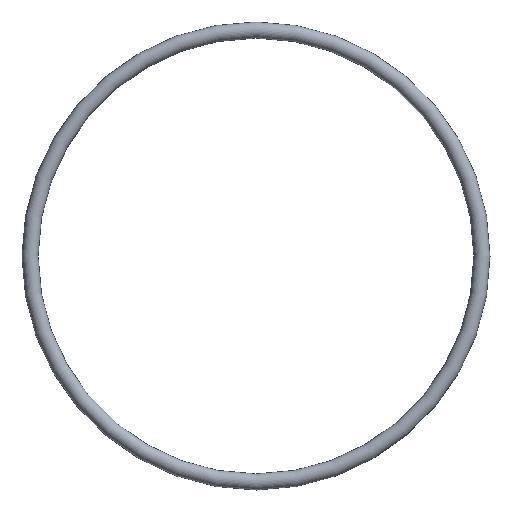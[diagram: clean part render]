
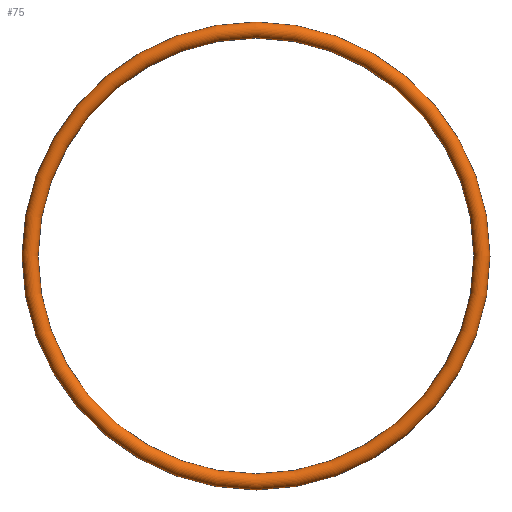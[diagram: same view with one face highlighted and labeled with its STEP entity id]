
A CAD part, front view. The second image highlights one B-rep face of the part: STEP entity #75.
In plain terms, the highlighted toroidal (fillet/blend) face has major radius 28 mm and minor radius 1 mm.
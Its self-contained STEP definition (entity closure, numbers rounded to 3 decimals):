
#75 = ADVANCED_FACE( '', ( #77 ), #78, .T. );
#77 = FACE_BOUND( '', #79, .T. );
#78 = TOROIDAL_SURFACE( '', #80, 28., 1. );
#79 = VERTEX_LOOP( '', #81 );
#80 = AXIS2_PLACEMENT_3D( '', #82, #83, #84 );
#81 = VERTEX_POINT( '', #85 );
#82 = CARTESIAN_POINT( '', ( 0., 0., 0. ) );
#83 = DIRECTION( '', ( 0., -1., 0. ) );
#84 = DIRECTION( '', ( 0., 0., -1. ) );
#85 = CARTESIAN_POINT( '', ( 0., 0., -29. ) );
